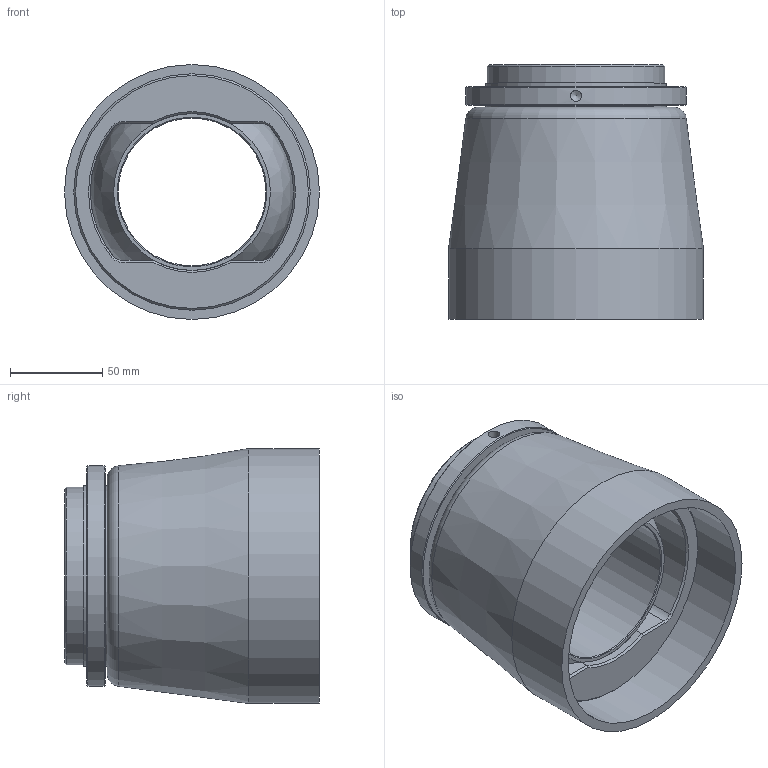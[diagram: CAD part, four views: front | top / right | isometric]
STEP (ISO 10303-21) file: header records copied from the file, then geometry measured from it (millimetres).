
FILE_DESCRIPTION(('STEP AP214'),'1');
FILE_NAME('Z:/J/Jp3/Palier/Palier-type1/3D TopSolid 2011/Serie 10.xx.xx/10.14.xx/10.14.08.step','2012-02-23T13:29:21',(' '),(' '),'Spatial InterOp 3D',' ',' ');
FILE_SCHEMA(('automotive_design'));
Length unit declared in the file: metre
Products named in the file (4): ecrou; boitier 08; rotule 08; housing 08
Bounding box: 138 x 137.86 x 138 mm (x, y, z)
Volume: 555832.4 mm3; surface area: 237419 mm2
Topology: 3 solids, 13 shells, 65 faces, 149 edges, 94 vertices
Faces by surface type: cylinder 21, cone 20, plane 19, torus 3, sphere 2
Full cylindrical faces by diameter (mm): 6 x2, 80 x1, 85 x1, 96 x1, 98 x4, 119.5 x1, 128 x2, 138 x1
Entity records: 2371 total; most frequent: CARTESIAN_POINT 453, DIRECTION 310, ORIENTED_EDGE 200, AXIS2_PLACEMENT_3D 141, EDGE_CURVE 110, EDGE_LOOP 106, VERTEX_POINT 88, CIRCLE 72
